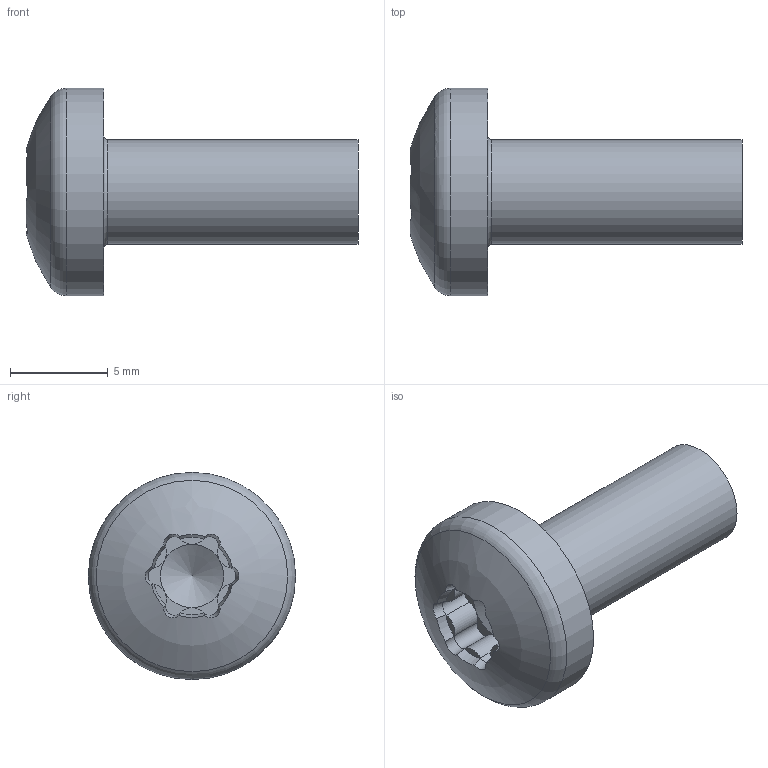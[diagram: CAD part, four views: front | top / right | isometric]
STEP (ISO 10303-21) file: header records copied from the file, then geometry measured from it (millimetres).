
FILE_DESCRIPTION(('STEP AP214'), '1');
FILE_NAME('妈眚 襦祛磬疱玎栝 S 5.13 T', '', ('UNSPECIFIED'), ('UNSPECIFIED'), 'C3D Converter', 'C3D Toolkit', '');
FILE_SCHEMA(('AUTOMOTIVE_DESIGN { 1 0 10303 214 3 1 1}'));
Length unit declared in the file: millimetre
Assembly tree (1 placements, depth 2):
  (unnamed)
    (unnamed)
Bounding box: 16.98 x 10.6 x 10.6 mm (x, y, z)
Volume: 555.8 mm3; surface area: 513.1 mm2
Topology: 1 solids, 1 shells, 44 faces, 110 edges, 68 vertices
Faces by surface type: plane 14, cylinder 14, cone 7, bspline 6, torus 2, sphere 1
Full cylindrical faces by diameter (mm): 5.34 x1, 10.6 x1
Entity records: 2254 total; most frequent: CARTESIAN_POINT 791, DIRECTION 230, ORIENTED_EDGE 206, AXIS2_PLACEMENT_3D 106, EDGE_CURVE 103, VERTEX_POINT 67, CIRCLE 66, EDGE_LOOP 50
